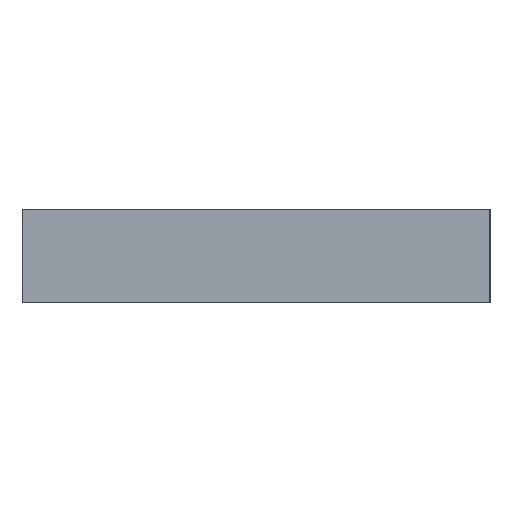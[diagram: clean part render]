
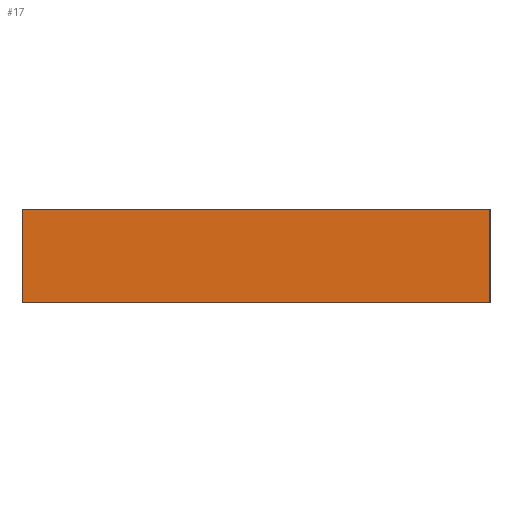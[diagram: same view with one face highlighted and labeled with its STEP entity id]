
A CAD part, left-side view. The second image highlights one B-rep face of the part: STEP entity #17.
In plain terms, the highlighted planar face has unit normal (-1, 0, 0).
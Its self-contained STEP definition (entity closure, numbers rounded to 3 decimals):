
#17 = ADVANCED_FACE('',(#18),#32,.F.);
#18 = FACE_BOUND('',#19,.F.);
#19 = EDGE_LOOP('',(#20,#55,#83,#111));
#20 = ORIENTED_EDGE('',*,*,#21,.F.);
#21 = EDGE_CURVE('',#22,#24,#26,.T.);
#22 = VERTEX_POINT('',#23);
#23 = CARTESIAN_POINT('',(-40.,-10.,0.));
#24 = VERTEX_POINT('',#25);
#25 = CARTESIAN_POINT('',(-40.,-10.,4.));
#26 = SURFACE_CURVE('',#27,(#31,#43),.PCURVE_S1.);
#27 = LINE('',#28,#29);
#28 = CARTESIAN_POINT('',(-40.,-10.,0.));
#29 = VECTOR('',#30,1.);
#30 = DIRECTION('',(0.,0.,1.));
#31 = PCURVE('',#32,#37);
#32 = PLANE('',#33);
#33 = AXIS2_PLACEMENT_3D('',#34,#35,#36);
#34 = CARTESIAN_POINT('',(-40.,-10.,0.));
#35 = DIRECTION('',(1.,0.,0.));
#36 = DIRECTION('',(0.,0.,1.));
#37 = DEFINITIONAL_REPRESENTATION('',(#38),#42);
#38 = LINE('',#39,#40);
#39 = CARTESIAN_POINT('',(0.,0.));
#40 = VECTOR('',#41,1.);
#41 = DIRECTION('',(1.,0.));
#42 = ( GEOMETRIC_REPRESENTATION_CONTEXT(2) 
PARAMETRIC_REPRESENTATION_CONTEXT() REPRESENTATION_CONTEXT('2D SPACE',''
  ) );
#43 = PCURVE('',#44,#49);
#44 = PLANE('',#45);
#45 = AXIS2_PLACEMENT_3D('',#46,#47,#48);
#46 = CARTESIAN_POINT('',(-40.,-10.,0.));
#47 = DIRECTION('',(0.,1.,0.));
#48 = DIRECTION('',(0.,0.,1.));
#49 = DEFINITIONAL_REPRESENTATION('',(#50),#54);
#50 = LINE('',#51,#52);
#51 = CARTESIAN_POINT('',(0.,0.));
#52 = VECTOR('',#53,1.);
#53 = DIRECTION('',(1.,0.));
#54 = ( GEOMETRIC_REPRESENTATION_CONTEXT(2) 
PARAMETRIC_REPRESENTATION_CONTEXT() REPRESENTATION_CONTEXT('2D SPACE',''
  ) );
#55 = ORIENTED_EDGE('',*,*,#56,.T.);
#56 = EDGE_CURVE('',#22,#57,#59,.T.);
#57 = VERTEX_POINT('',#58);
#58 = CARTESIAN_POINT('',(-40.,10.,0.));
#59 = SURFACE_CURVE('',#60,(#64,#71),.PCURVE_S1.);
#60 = LINE('',#61,#62);
#61 = CARTESIAN_POINT('',(-40.,-10.,0.));
#62 = VECTOR('',#63,1.);
#63 = DIRECTION('',(0.,1.,0.));
#64 = PCURVE('',#32,#65);
#65 = DEFINITIONAL_REPRESENTATION('',(#66),#70);
#66 = LINE('',#67,#68);
#67 = CARTESIAN_POINT('',(0.,0.));
#68 = VECTOR('',#69,1.);
#69 = DIRECTION('',(0.,-1.));
#70 = ( GEOMETRIC_REPRESENTATION_CONTEXT(2) 
PARAMETRIC_REPRESENTATION_CONTEXT() REPRESENTATION_CONTEXT('2D SPACE',''
  ) );
#71 = PCURVE('',#72,#77);
#72 = PLANE('',#73);
#73 = AXIS2_PLACEMENT_3D('',#74,#75,#76);
#74 = CARTESIAN_POINT('',(-40.,-10.,0.));
#75 = DIRECTION('',(0.,0.,1.));
#76 = DIRECTION('',(1.,0.,0.));
#77 = DEFINITIONAL_REPRESENTATION('',(#78),#82);
#78 = LINE('',#79,#80);
#79 = CARTESIAN_POINT('',(0.,0.));
#80 = VECTOR('',#81,1.);
#81 = DIRECTION('',(0.,1.));
#82 = ( GEOMETRIC_REPRESENTATION_CONTEXT(2) 
PARAMETRIC_REPRESENTATION_CONTEXT() REPRESENTATION_CONTEXT('2D SPACE',''
  ) );
#83 = ORIENTED_EDGE('',*,*,#84,.T.);
#84 = EDGE_CURVE('',#57,#85,#87,.T.);
#85 = VERTEX_POINT('',#86);
#86 = CARTESIAN_POINT('',(-40.,10.,4.));
#87 = SURFACE_CURVE('',#88,(#92,#99),.PCURVE_S1.);
#88 = LINE('',#89,#90);
#89 = CARTESIAN_POINT('',(-40.,10.,0.));
#90 = VECTOR('',#91,1.);
#91 = DIRECTION('',(0.,0.,1.));
#92 = PCURVE('',#32,#93);
#93 = DEFINITIONAL_REPRESENTATION('',(#94),#98);
#94 = LINE('',#95,#96);
#95 = CARTESIAN_POINT('',(0.,-20.));
#96 = VECTOR('',#97,1.);
#97 = DIRECTION('',(1.,0.));
#98 = ( GEOMETRIC_REPRESENTATION_CONTEXT(2) 
PARAMETRIC_REPRESENTATION_CONTEXT() REPRESENTATION_CONTEXT('2D SPACE',''
  ) );
#99 = PCURVE('',#100,#105);
#100 = PLANE('',#101);
#101 = AXIS2_PLACEMENT_3D('',#102,#103,#104);
#102 = CARTESIAN_POINT('',(-40.,10.,0.));
#103 = DIRECTION('',(0.,1.,0.));
#104 = DIRECTION('',(0.,0.,1.));
#105 = DEFINITIONAL_REPRESENTATION('',(#106),#110);
#106 = LINE('',#107,#108);
#107 = CARTESIAN_POINT('',(0.,0.));
#108 = VECTOR('',#109,1.);
#109 = DIRECTION('',(1.,0.));
#110 = ( GEOMETRIC_REPRESENTATION_CONTEXT(2) 
PARAMETRIC_REPRESENTATION_CONTEXT() REPRESENTATION_CONTEXT('2D SPACE',''
  ) );
#111 = ORIENTED_EDGE('',*,*,#112,.F.);
#112 = EDGE_CURVE('',#24,#85,#113,.T.);
#113 = SURFACE_CURVE('',#114,(#118,#125),.PCURVE_S1.);
#114 = LINE('',#115,#116);
#115 = CARTESIAN_POINT('',(-40.,-10.,4.));
#116 = VECTOR('',#117,1.);
#117 = DIRECTION('',(0.,1.,0.));
#118 = PCURVE('',#32,#119);
#119 = DEFINITIONAL_REPRESENTATION('',(#120),#124);
#120 = LINE('',#121,#122);
#121 = CARTESIAN_POINT('',(4.,0.));
#122 = VECTOR('',#123,1.);
#123 = DIRECTION('',(0.,-1.));
#124 = ( GEOMETRIC_REPRESENTATION_CONTEXT(2) 
PARAMETRIC_REPRESENTATION_CONTEXT() REPRESENTATION_CONTEXT('2D SPACE',''
  ) );
#125 = PCURVE('',#126,#131);
#126 = PLANE('',#127);
#127 = AXIS2_PLACEMENT_3D('',#128,#129,#130);
#128 = CARTESIAN_POINT('',(-40.,-10.,4.));
#129 = DIRECTION('',(0.,0.,1.));
#130 = DIRECTION('',(1.,0.,0.));
#131 = DEFINITIONAL_REPRESENTATION('',(#132),#136);
#132 = LINE('',#133,#134);
#133 = CARTESIAN_POINT('',(0.,0.));
#134 = VECTOR('',#135,1.);
#135 = DIRECTION('',(0.,1.));
#136 = ( GEOMETRIC_REPRESENTATION_CONTEXT(2) 
PARAMETRIC_REPRESENTATION_CONTEXT() REPRESENTATION_CONTEXT('2D SPACE',''
  ) );
